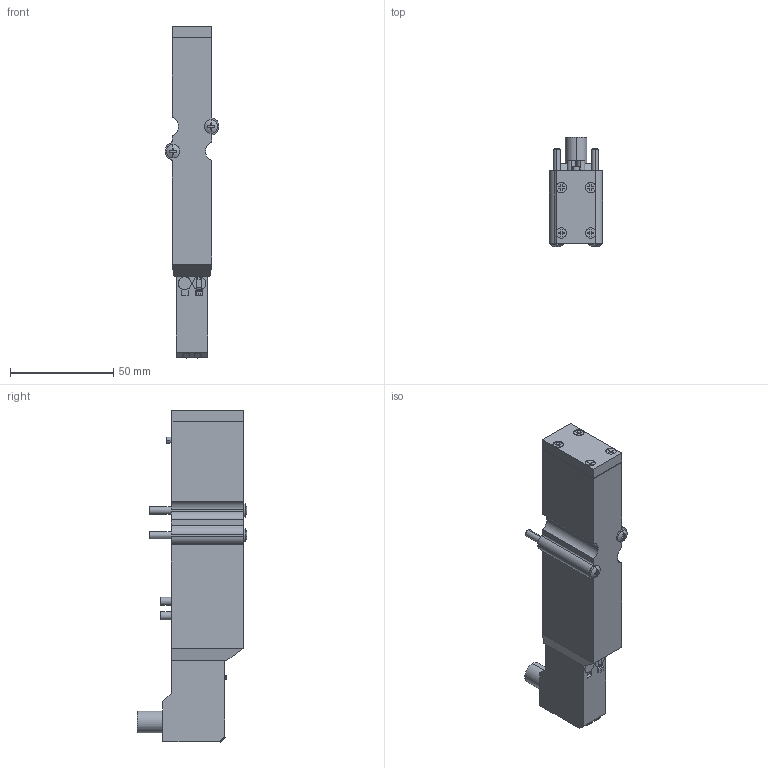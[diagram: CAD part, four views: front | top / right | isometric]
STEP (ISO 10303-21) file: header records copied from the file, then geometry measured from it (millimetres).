
FILE_DESCRIPTION((''),'2;1');
FILE_NAME('0820056002','2020-07-06T18:34:14',('GIO1HC'),(''),'CREO PARAMETRIC BY PTC INC, 2018190','CREO PARAMETRIC BY PTC INC, 2018190','');
FILE_SCHEMA(('AUTOMOTIVE_DESIGN { 1 0 10303 214 1 1 1 1 }'));
Length unit declared in the file: millimetre
Products named in the file (1): 0820056002
Bounding box: 25.7 x 53.17 x 160.53 mm (x, y, z)
Volume: 99348.4 mm3; surface area: 19688.4 mm2
Topology: 1 solids, 1 shells, 263 faces, 703 edges, 461 vertices
Faces by surface type: plane 192, cylinder 59, bspline 4, cone 4, sphere 4
Entity records: 8765 total; most frequent: CARTESIAN_POINT 1885, ORIENTED_EDGE 1406, DIRECTION 1384, EDGE_CURVE 703, VECTOR 532, LINE 532, VERTEX_POINT 461, AXIS2_PLACEMENT_3D 426
